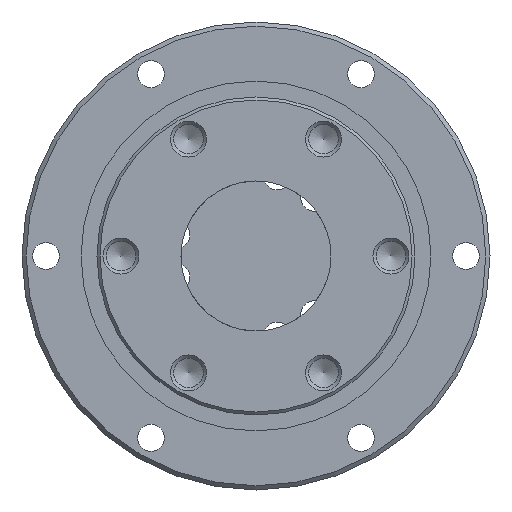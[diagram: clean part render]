
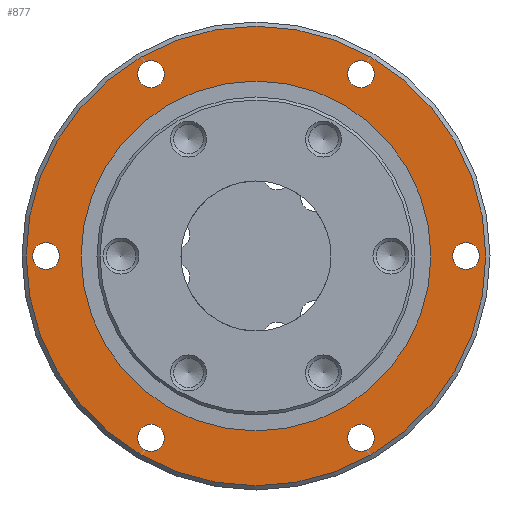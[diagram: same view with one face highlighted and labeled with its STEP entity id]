
A CAD part, left-side view. The second image highlights one B-rep face of the part: STEP entity #877.
In plain terms, the highlighted planar face has unit normal (-1, 0, 0).
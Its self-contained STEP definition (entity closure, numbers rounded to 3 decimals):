
#65=PLANE('',#1007);
#184=ORIENTED_EDGE('',*,*,#334,.F.);
#185=ORIENTED_EDGE('',*,*,#335,.F.);
#186=ORIENTED_EDGE('',*,*,#336,.F.);
#187=ORIENTED_EDGE('',*,*,#337,.F.);
#188=ORIENTED_EDGE('',*,*,#338,.F.);
#189=ORIENTED_EDGE('',*,*,#339,.F.);
#190=ORIENTED_EDGE('',*,*,#340,.F.);
#191=ORIENTED_EDGE('',*,*,#333,.T.);
#333=EDGE_CURVE('',#416,#416,#505,.T.);
#334=EDGE_CURVE('',#417,#417,#506,.T.);
#335=EDGE_CURVE('',#418,#418,#507,.F.);
#336=EDGE_CURVE('',#419,#419,#508,.F.);
#337=EDGE_CURVE('',#420,#420,#509,.F.);
#338=EDGE_CURVE('',#421,#421,#510,.F.);
#339=EDGE_CURVE('',#422,#422,#511,.F.);
#340=EDGE_CURVE('',#423,#423,#512,.F.);
#416=VERTEX_POINT('',#1528);
#417=VERTEX_POINT('',#1531);
#418=VERTEX_POINT('',#1533);
#419=VERTEX_POINT('',#1535);
#420=VERTEX_POINT('',#1537);
#421=VERTEX_POINT('',#1539);
#422=VERTEX_POINT('',#1541);
#423=VERTEX_POINT('',#1543);
#505=CIRCLE('',#1006,29.15);
#506=CIRCLE('',#1008,38.3);
#507=CIRCLE('',#1009,2.25);
#508=CIRCLE('',#1010,2.25);
#509=CIRCLE('',#1011,2.25);
#510=CIRCLE('',#1012,2.25);
#511=CIRCLE('',#1013,2.25);
#512=CIRCLE('',#1014,2.25);
#583=EDGE_LOOP('',(#184));
#584=EDGE_LOOP('',(#185));
#585=EDGE_LOOP('',(#186));
#586=EDGE_LOOP('',(#187));
#587=EDGE_LOOP('',(#188));
#588=EDGE_LOOP('',(#189));
#589=EDGE_LOOP('',(#190));
#590=EDGE_LOOP('',(#191));
#715=FACE_BOUND('',#583,.T.);
#716=FACE_BOUND('',#584,.T.);
#717=FACE_BOUND('',#585,.T.);
#718=FACE_BOUND('',#586,.T.);
#719=FACE_BOUND('',#587,.T.);
#720=FACE_BOUND('',#588,.T.);
#721=FACE_BOUND('',#589,.T.);
#722=FACE_BOUND('',#590,.T.);
#877=ADVANCED_FACE('',(#715,#716,#717,#718,#719,#720,#721,#722),#65,.F.);
#1006=AXIS2_PLACEMENT_3D('',#1527,#1228,#1229);
#1007=AXIS2_PLACEMENT_3D('',#1529,#1230,#1231);
#1008=AXIS2_PLACEMENT_3D('',#1530,#1232,#1233);
#1009=AXIS2_PLACEMENT_3D('',#1532,#1234,#1235);
#1010=AXIS2_PLACEMENT_3D('',#1534,#1236,#1237);
#1011=AXIS2_PLACEMENT_3D('',#1536,#1238,#1239);
#1012=AXIS2_PLACEMENT_3D('',#1538,#1240,#1241);
#1013=AXIS2_PLACEMENT_3D('',#1540,#1242,#1243);
#1014=AXIS2_PLACEMENT_3D('',#1542,#1244,#1245);
#1228=DIRECTION('',(1.,0.,0.));
#1229=DIRECTION('',(0.,0.,-1.));
#1230=DIRECTION('',(1.,0.,0.));
#1231=DIRECTION('',(0.,0.,-1.));
#1232=DIRECTION('',(1.,0.,0.));
#1233=DIRECTION('',(0.,0.,-1.));
#1234=DIRECTION('',(1.,0.,0.));
#1235=DIRECTION('',(0.,0.,-1.));
#1236=DIRECTION('',(1.,0.,0.));
#1237=DIRECTION('',(0.,0.,-1.));
#1238=DIRECTION('',(1.,0.,0.));
#1239=DIRECTION('',(0.,0.,-1.));
#1240=DIRECTION('',(1.,0.,0.));
#1241=DIRECTION('',(0.,0.,-1.));
#1242=DIRECTION('',(1.,0.,0.));
#1243=DIRECTION('',(0.,0.,-1.));
#1244=DIRECTION('',(1.,0.,0.));
#1245=DIRECTION('',(0.,0.,-1.));
#1527=CARTESIAN_POINT('',(13.,0.,0.));
#1528=CARTESIAN_POINT('',(13.,0.,-29.15));
#1529=CARTESIAN_POINT('',(13.,29.15,0.));
#1530=CARTESIAN_POINT('',(13.,0.,0.));
#1531=CARTESIAN_POINT('',(13.,0.,-38.3));
#1532=CARTESIAN_POINT('',(13.,35.,0.));
#1533=CARTESIAN_POINT('',(13.,35.,-2.25));
#1534=CARTESIAN_POINT('',(13.,17.5,-30.311));
#1535=CARTESIAN_POINT('',(13.,17.5,-32.561));
#1536=CARTESIAN_POINT('',(13.,-17.5,-30.311));
#1537=CARTESIAN_POINT('',(13.,-17.5,-32.561));
#1538=CARTESIAN_POINT('',(13.,-35.,0.));
#1539=CARTESIAN_POINT('',(13.,-35.,-2.25));
#1540=CARTESIAN_POINT('',(13.,-17.5,30.311));
#1541=CARTESIAN_POINT('',(13.,-17.5,28.061));
#1542=CARTESIAN_POINT('',(13.,17.5,30.311));
#1543=CARTESIAN_POINT('',(13.,17.5,28.061));
